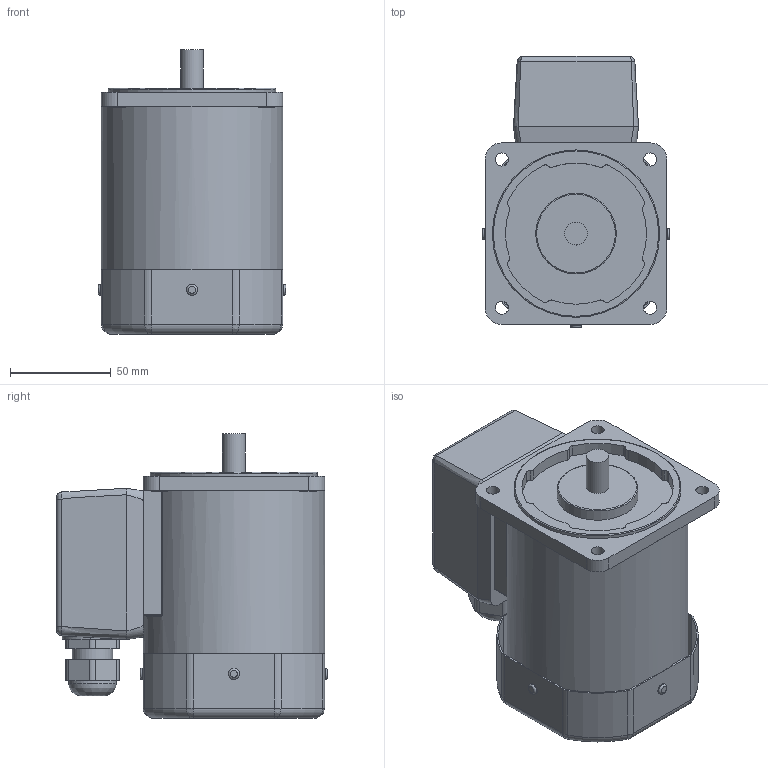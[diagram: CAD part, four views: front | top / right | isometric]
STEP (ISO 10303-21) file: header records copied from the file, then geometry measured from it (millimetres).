
FILE_DESCRIPTION((''),'2;1');
FILE_NAME('E:\2공장-도면\3D\표준형 3D(민규)\step file\K9IP60Fㅁ-T.stp','2014-11-13T09:42:19',('AHN'),(''),'Autodesk Inventor 2012','Autodesk Inventor 2012','');
FILE_SCHEMA(('CONFIG_CONTROL_DESIGN'));
Length unit declared in the file: millimetre
Products named in the file (3): K9IP60Fㅁ-T; K9IP60Fㅁ; TERMINAL BOX
Assembly tree (2 placements, depth 2):
  K9IP60Fㅁ-T
    K9IP60Fㅁ
    TERMINAL BOX
Bounding box: 93 x 134.5 x 141 mm (x, y, z)
Volume: 893859.2 mm3; surface area: 100881.7 mm2
Topology: 2 solids, 8 shells, 321 faces, 767 edges, 466 vertices
Faces by surface type: cylinder 151, plane 101, torus 48, bspline 21
Full cylindrical faces by diameter (mm): 5.5 x4, 6.5 x4, 8 x4, 11.3 x1, 20 x1, 23.5 x1, 40 x1, 83 x1, 90 x1
Entity records: 10517 total; most frequent: CARTESIAN_POINT 3075, DIRECTION 1574, ORIENTED_EDGE 1474, EDGE_CURVE 737, AXIS2_PLACEMENT_3D 620, VERTEX_POINT 463, EDGE_LOOP 394, VECTOR 334
